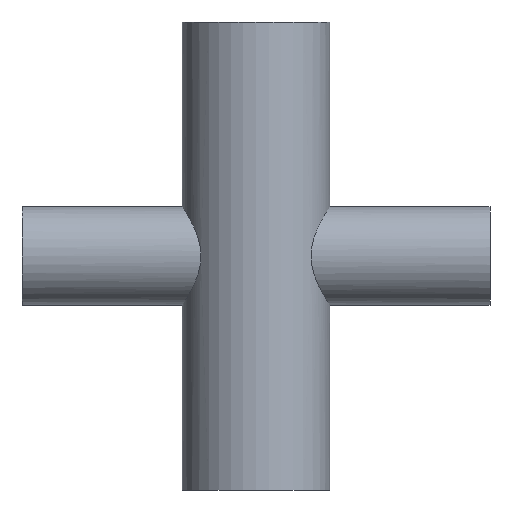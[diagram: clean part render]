
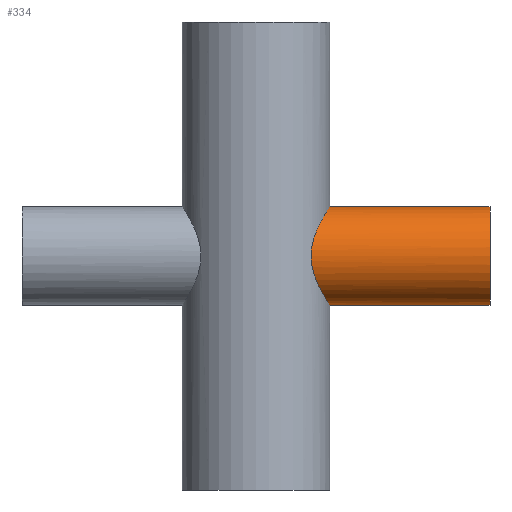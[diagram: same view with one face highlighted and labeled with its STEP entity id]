
A CAD part, front view. The second image highlights one B-rep face of the part: STEP entity #334.
In plain terms, the highlighted cylindrical face has radius 12.7 mm (diameter 25.4 mm), a partial arc.
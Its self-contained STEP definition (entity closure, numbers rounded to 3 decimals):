
#2 = ORIENTED_EDGE ( 'NONE', *, *, #563, .T. ) ;
#17 = CARTESIAN_POINT ( 'NONE',  ( 16.168, -10.08, 7.736 ) ) ;
#21 = CARTESIAN_POINT ( 'NONE',  ( 14.22, -12.676, -0.887 ) ) ;
#26 = CARTESIAN_POINT ( 'NONE',  ( 17.093, -8.435, -9.528 ) ) ;
#47 = ORIENTED_EDGE ( 'NONE', *, *, #490, .T. ) ;
#54 = B_SPLINE_CURVE_WITH_KNOTS ( 'NONE', 3,
 ( #789, #585, #56, #309, #717, #236, #645, #580, #102, #513, #26, #451, #855, #382, #783, #305, #713, #232, #641, #161, #576, #98, #511, #21, #446, #851, #380, #780, #301, #710, #228, #638, #157, #573, #93, #508, #17, #443, #848, #375, #776, #297, #706, #674, #749, #683, #268, #343, #746, #884, #415, #818 ),
 .UNSPECIFIED., .F., .F.,
 ( 4, 2, 2, 2, 2, 2, 2, 2, 2, 2, 2, 2, 2, 2, 2, 2, 2, 2, 2, 2, 2, 2, 2, 2, 2, 4 ),
 ( 0.041, 0.044, 0.045, 0.046, 0.049, 0.051, 0.053, 0.054, 0.056, 0.058, 0.059, 0.06, 0.062, 0.064, 0.065, 0.067, 0.068, 0.069, 0.07, 0.072, 0.074, 0.076, 0.077, 0.079, 0.081, 0.082 ),
 .UNSPECIFIED. ) ;
#56 = CARTESIAN_POINT ( 'NONE',  ( 18.991, -1.718, -12.612 ) ) ;
#60 = AXIS2_PLACEMENT_3D ( 'NONE', #498, #493, #489 ) ;
#77 = DIRECTION ( 'NONE',  ( 1., 0., 0. ) ) ;
#87 = EDGE_CURVE ( 'NONE', #412, #807, #54, .T. ) ;
#90 = CARTESIAN_POINT ( 'NONE',  ( -60.325, 0., -12.7 ) ) ;
#93 = CARTESIAN_POINT ( 'NONE',  ( 15.717, -10.769, 6.745 ) ) ;
#98 = CARTESIAN_POINT ( 'NONE',  ( 14.357, -12.522, -2.161 ) ) ;
#102 = CARTESIAN_POINT ( 'NONE',  ( 17.937, -6.457, -10.967 ) ) ;
#138 = VERTEX_POINT ( 'NONE', #887 ) ;
#157 = CARTESIAN_POINT ( 'NONE',  ( 15.289, -11.367, 5.679 ) ) ;
#161 = CARTESIAN_POINT ( 'NONE',  ( 14.594, -12.245, -3.396 ) ) ;
#228 = CARTESIAN_POINT ( 'NONE',  ( 14.905, -11.866, 4.546 ) ) ;
#232 = CARTESIAN_POINT ( 'NONE',  ( 14.918, -11.849, -4.59 ) ) ;
#236 = CARTESIAN_POINT ( 'NONE',  ( 18.588, -4.19, -11.996 ) ) ;
#266 = VECTOR ( 'NONE', #77, 1000. ) ;
#268 = CARTESIAN_POINT ( 'NONE',  ( 18.761, -3.414, 12.262 ) ) ;
#286 = AXIS2_PLACEMENT_3D ( 'NONE', #601, #581, #540 ) ;
#297 = CARTESIAN_POINT ( 'NONE',  ( 17.791, -6.821, 10.72 ) ) ;
#301 = CARTESIAN_POINT ( 'NONE',  ( 14.586, -12.255, 3.358 ) ) ;
#303 = CIRCLE ( 'NONE', #60, 12.7 ) ;
#305 = CARTESIAN_POINT ( 'NONE',  ( 15.575, -10.982, -6.429 ) ) ;
#309 = CARTESIAN_POINT ( 'NONE',  ( 18.822, -2.966, -12.356 ) ) ;
#334 = ADVANCED_FACE ( 'NONE', ( #376 ), #878, .T. ) ;
#343 = CARTESIAN_POINT ( 'NONE',  ( 18.932, -2.156, 12.523 ) ) ;
#371 = EDGE_CURVE ( 'NONE', #807, #138, #570, .T. ) ;
#375 = CARTESIAN_POINT ( 'NONE',  ( 17.089, -8.444, 9.52 ) ) ;
#376 = FACE_OUTER_BOUND ( 'NONE', #602, .T. ) ;
#380 = CARTESIAN_POINT ( 'NONE',  ( 14.276, -12.616, 1.691 ) ) ;
#382 = CARTESIAN_POINT ( 'NONE',  ( 16.175, -10.067, -7.753 ) ) ;
#412 = VERTEX_POINT ( 'NONE', #882 ) ;
#415 = CARTESIAN_POINT ( 'NONE',  ( 19.05, -0.434, 12.7 ) ) ;
#443 = CARTESIAN_POINT ( 'NONE',  ( 16.475, -9.57, 8.359 ) ) ;
#446 = CARTESIAN_POINT ( 'NONE',  ( 14.2, -12.699, -0.45 ) ) ;
#451 = CARTESIAN_POINT ( 'NONE',  ( 16.638, -9.284, -8.675 ) ) ;
#487 = ORIENTED_EDGE ( 'NONE', *, *, #87, .F. ) ;
#489 = DIRECTION ( 'NONE',  ( 0., 0., -1. ) ) ;
#490 = EDGE_CURVE ( 'NONE', #755, #138, #303, .T. ) ;
#491 = LINE ( 'NONE', #90, #266 ) ;
#493 = DIRECTION ( 'NONE',  ( -1., 0., 0. ) ) ;
#498 = CARTESIAN_POINT ( 'NONE',  ( 60.325, 0., 0. ) ) ;
#508 = CARTESIAN_POINT ( 'NONE',  ( 16.015, -10.319, 7.414 ) ) ;
#510 = VECTOR ( 'NONE', #863, 1000. ) ;
#511 = CARTESIAN_POINT ( 'NONE',  ( 14.299, -12.587, -1.741 ) ) ;
#512 = CARTESIAN_POINT ( 'NONE',  ( 60.325, 0., -12.7 ) ) ;
#513 = CARTESIAN_POINT ( 'NONE',  ( 17.388, -7.816, -10.044 ) ) ;
#540 = DIRECTION ( 'NONE',  ( 0., 0., -1. ) ) ;
#563 = EDGE_CURVE ( 'NONE', #412, #755, #491, .T. ) ;
#570 = LINE ( 'NONE', #888, #510 ) ;
#573 = CARTESIAN_POINT ( 'NONE',  ( 15.571, -10.978, 6.398 ) ) ;
#576 = CARTESIAN_POINT ( 'NONE',  ( 14.504, -12.351, -2.988 ) ) ;
#580 = CARTESIAN_POINT ( 'NONE',  ( 18.184, -5.734, -11.362 ) ) ;
#581 = DIRECTION ( 'NONE',  ( 1., 0., 0. ) ) ;
#583 = CARTESIAN_POINT ( 'NONE',  ( 19.05, 0., 12.7 ) ) ;
#585 = CARTESIAN_POINT ( 'NONE',  ( 19.05, -0.869, -12.7 ) ) ;
#601 = CARTESIAN_POINT ( 'NONE',  ( -60.325, 0., 0. ) ) ;
#602 = EDGE_LOOP ( 'NONE', ( #703, #487, #2, #47 ) ) ;
#638 = CARTESIAN_POINT ( 'NONE',  ( 15.154, -11.546, 5.307 ) ) ;
#641 = CARTESIAN_POINT ( 'NONE',  ( 14.802, -11.993, -4.198 ) ) ;
#645 = CARTESIAN_POINT ( 'NONE',  ( 18.494, -4.585, -11.851 ) ) ;
#674 = CARTESIAN_POINT ( 'NONE',  ( 18.166, -5.748, 11.333 ) ) ;
#683 = CARTESIAN_POINT ( 'NONE',  ( 18.595, -4.216, 12.009 ) ) ;
#703 = ORIENTED_EDGE ( 'NONE', *, *, #371, .F. ) ;
#706 = CARTESIAN_POINT ( 'NONE',  ( 17.921, -6.473, 10.934 ) ) ;
#710 = CARTESIAN_POINT ( 'NONE',  ( 14.79, -12.008, 4.156 ) ) ;
#713 = CARTESIAN_POINT ( 'NONE',  ( 15.292, -11.368, -5.722 ) ) ;
#717 = CARTESIAN_POINT ( 'NONE',  ( 18.753, -3.377, -12.25 ) ) ;
#746 = CARTESIAN_POINT ( 'NONE',  ( 18.976, -1.727, 12.589 ) ) ;
#749 = CARTESIAN_POINT ( 'NONE',  ( 18.282, -5.37, 11.517 ) ) ;
#755 = VERTEX_POINT ( 'NONE', #512 ) ;
#776 = CARTESIAN_POINT ( 'NONE',  ( 17.383, -7.826, 10.035 ) ) ;
#780 = CARTESIAN_POINT ( 'NONE',  ( 14.496, -12.361, 2.946 ) ) ;
#783 = CARTESIAN_POINT ( 'NONE',  ( 16.022, -10.308, -7.429 ) ) ;
#789 = CARTESIAN_POINT ( 'NONE',  ( 19.05, 0., -12.7 ) ) ;
#807 = VERTEX_POINT ( 'NONE', #583 ) ;
#818 = CARTESIAN_POINT ( 'NONE',  ( 19.05, 0., 12.7 ) ) ;
#848 = CARTESIAN_POINT ( 'NONE',  ( 16.63, -9.298, 8.661 ) ) ;
#851 = CARTESIAN_POINT ( 'NONE',  ( 14.198, -12.701, 0.842 ) ) ;
#855 = CARTESIAN_POINT ( 'NONE',  ( 16.484, -9.554, -8.377 ) ) ;
#863 = DIRECTION ( 'NONE',  ( 1., 0., 0. ) ) ;
#878 = CYLINDRICAL_SURFACE ( 'NONE', #286, 12.7 ) ;
#882 = CARTESIAN_POINT ( 'NONE',  ( 19.05, 0., -12.7 ) ) ;
#884 = CARTESIAN_POINT ( 'NONE',  ( 19.035, -0.867, 12.678 ) ) ;
#887 = CARTESIAN_POINT ( 'NONE',  ( 60.325, 0., 12.7 ) ) ;
#888 = CARTESIAN_POINT ( 'NONE',  ( -60.325, 0., 12.7 ) ) ;
